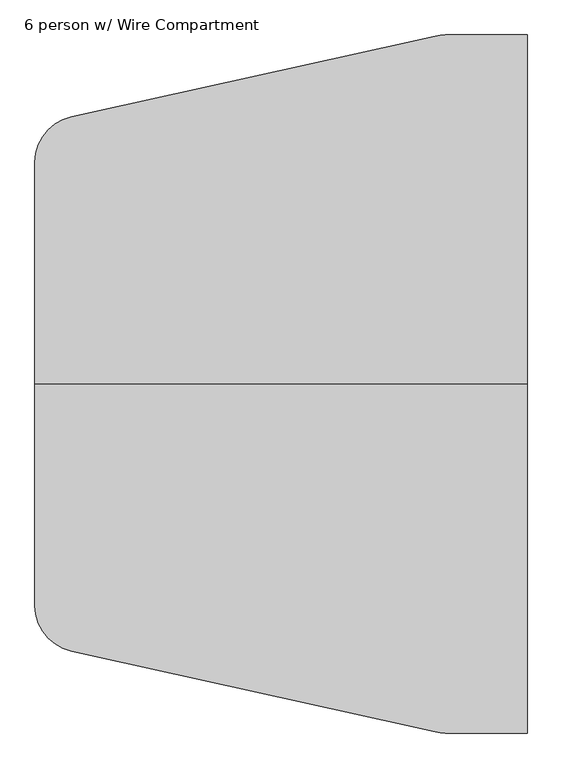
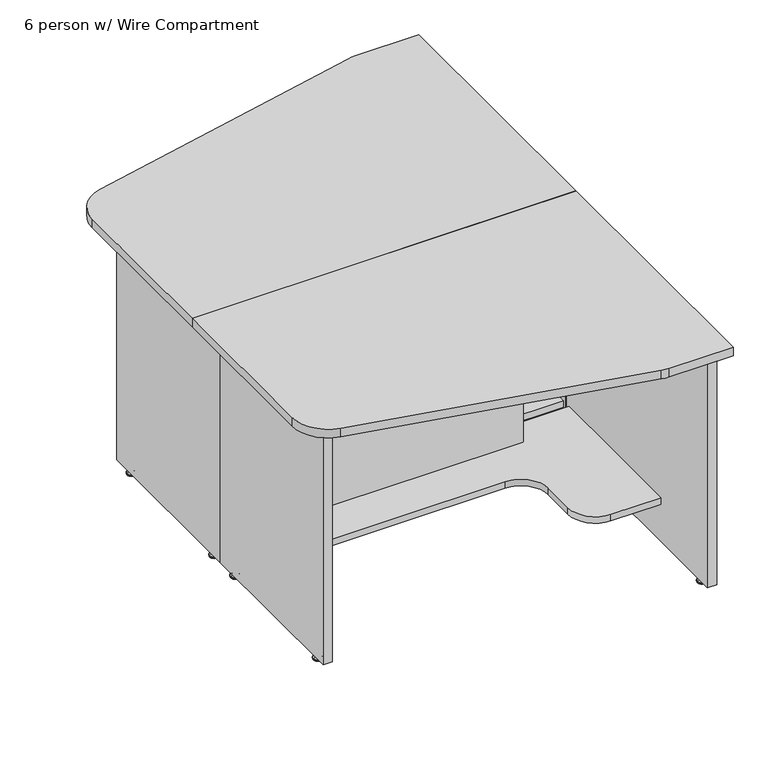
"""IFC4 building model written with IfcOpenShell, lengths in millimetres: furniture geometry, Nova Solutions - Collaboration Table - Boat_6-8 person : 6 person w/ Wire Compartment."""

from ifc_helpers import new_model, si_unit, point, frame, frame_2d, origin, place, context, project, spatial, polyline, circle_curve, ellipse_curve, trimmed, segment, composite_curve, outline, extrude, source, transform, mapped, element, save
from ifc_brep_helpers import plane_surface, cylinder_surface, revolved_surface, advanced_brep


def furniture_6_person_w_wire_compartment_566aee02(model_context):
    return source(origin(), model_context, "Body", "SolidModel", [
        extrude(outline(polyline([(145.5, -1880.6768948), (145.5, -1112.3768948), (507.4, -1112.3768948), (507.4, -941.3768948), (736.3, -941.3768948), (736.3, -1880.6768948), (145.5, -1880.6768948)])), frame((0.0, 69.4, 0.0), z_axis=(0.0, 1.0, 0.0), x_axis=(0.0, 0.0, 1.0)), (0.0, 0.0, 1.0), 19.2),
        extrude(outline(composite_curve([segment(polyline([(-1880.6768948, 14.1), (-1880.6768948, 210.4), (-1233.5768948, 210.4)]), True, "CONTINUOUS"), segment(trimmed(circle_curve(frame_2d((-1233.5768948, 286.6)), 76.2), [point((-1233.5768948, 210.4))], [point((-1157.3768948, 286.6))], True, "CARTESIAN"), True, "CONTINUOUS"), segment(polyline([(-1157.3768948, 286.6), (-1157.3768948, 381.0625)]), True, "CONTINUOUS"), segment(trimmed(circle_curve(frame_2d((-1081.1768948, 381.0625)), 76.2), [point((-1157.3768948, 381.0625))], [point((-1081.1768948, 457.2625))], False, "CARTESIAN"), True, "CONTINUOUS"), segment(polyline([(-1081.1768948, 457.2625), (-941.3768948, 457.2625), (-941.3768948, 14.1), (-1880.6768948, 14.1)]), True, "CONTINUOUS")], self_intersect=False)), frame((0.0, 0.0, 126.3), z_axis=(0.0, 0.0, 1.0), x_axis=(1.0, 0.0, 0.0)), (0.0, 0.0, 1.0), 19.2),
        advanced_brep(
        [(-1900.2045454, 448.9859375, 11.1125), (-1886.8492442, 448.9859375, 11.1125), (-1893.5268948, 448.9859375, 11.1125), (-1900.2045454, 448.9859375, 9.525), (-1886.8492442, 448.9859375, 9.525), (-1905.4124083, 448.9859375, 4.7748687), (-1881.6413813, 448.9859375, 4.7748687), (-1906.2735454, 448.9859375, 3.989419), (-1880.7802442, 448.9859375, 3.989419), (-1906.2735454, 448.9859375, 3.175), (-1880.7802442, 448.9859375, 3.175), (-1905.4228067, 448.9859375, 0.0), (-1881.6309828, 448.9859375, 0.0), (-1893.5268948, 448.9859375, 0.0)],
        [
            (0, 1, circle_curve(frame((-1893.5268948, 448.9859375, 11.1125), z_axis=(0.0, 0.0, 1.0), x_axis=(1.0, 0.0, 0.0)), 6.6776506)),
            (1, 2),
            (2, 0),
            (1, 0, circle_curve(frame((-1893.5268948, 448.9859375, 11.1125), z_axis=(0.0, 0.0, 1.0), x_axis=(1.0, 0.0, 0.0)), 6.6776506)),
            (3, 4, circle_curve(frame((-1893.5268948, 448.9859375, 9.525), z_axis=(0.0, 0.0, 1.0), x_axis=(1.0, 0.0, 0.0)), 6.6776506)),
            (4, 1),
            (0, 3),
            (4, 3, circle_curve(frame((-1893.5268948, 448.9859375, 9.525), z_axis=(0.0, 0.0, 1.0), x_axis=(1.0, 0.0, 0.0)), 6.6776506)),
            (5, 6, circle_curve(frame((-1893.5268948, 448.9859375, 4.7748687), z_axis=(0.0, 0.0, 1.0), x_axis=(1.0, 0.0, 0.0)), 11.8855135)),
            (6, 4, circle_curve(frame((-1880.5948321, 448.9859375, 11.1521822), z_axis=(0.0, 1.0, 0.0), x_axis=(-1.0, 0.0, 0.0)), 6.462615)),
            (3, 5, circle_curve(frame((-1906.4589575, 448.9859375, 11.1521822), z_axis=(0.0, 1.0, 0.0), x_axis=(1.0, 0.0, 0.0)), 6.462615)),
            (6, 5, circle_curve(frame((-1893.5268948, 448.9859375, 4.7748687), z_axis=(0.0, 0.0, 1.0), x_axis=(1.0, 0.0, 0.0)), 11.8855135)),
            (7, 8, circle_curve(frame((-1893.5268948, 448.9859375, 3.989419), z_axis=(0.0, 0.0, 1.0), x_axis=(1.0, 0.0, 0.0)), 12.7466506)),
            (8, 6, circle_curve(frame((-1881.8144316, 448.9859375, 3.7203591), z_axis=(0.0, -1.0, 0.0), x_axis=(-1.0, 0.0, 0.0)), 1.0686145)),
            (5, 7, circle_curve(frame((-1905.239358, 448.9859375, 3.7203591), z_axis=(0.0, -1.0, 0.0), x_axis=(1.0, 0.0, 0.0)), 1.0686145)),
            (8, 7, circle_curve(frame((-1893.5268948, 448.9859375, 3.989419), z_axis=(0.0, 0.0, 1.0), x_axis=(1.0, 0.0, 0.0)), 12.7466506)),
            (9, 10, circle_curve(frame((-1893.5268948, 448.9859375, 3.175), z_axis=(0.0, 0.0, 1.0), x_axis=(1.0, 0.0, 0.0)), 12.7466506)),
            (10, 8),
            (7, 9),
            (10, 9, circle_curve(frame((-1893.5268948, 448.9859375, 3.175), z_axis=(0.0, 0.0, 1.0), x_axis=(1.0, 0.0, 0.0)), 12.7466506)),
            (11, 12, circle_curve(frame((-1893.5268948, 448.9859375, 0.0), z_axis=(0.0, 0.0, 1.0), x_axis=(1.0, 0.0, 0.0)), 11.8959119)),
            (12, 10),
            (9, 11),
            (12, 11, circle_curve(frame((-1893.5268948, 448.9859375, 0.0), z_axis=(0.0, 0.0, 1.0), x_axis=(1.0, 0.0, 0.0)), 11.8959119)),
            (13, 12),
            (11, 13),
        ],
        [
            plane_surface(frame((-1893.5268948, 448.9859375, 11.1125), z_axis=(0.0, 0.0, 1.0), x_axis=(1.0, 0.0, 0.0))),
            cylinder_surface(frame((-1893.5268948, 448.9859375, 43.2095994), z_axis=(0.0, 0.0, -1.0), x_axis=(1.0, 0.0, 0.0)), 6.6776506),
            revolved_surface(trimmed(ellipse_curve(frame((-1880.5948321, 448.9859375, 11.1521822), z_axis=(0.0, -1.0, 0.0), x_axis=(-1.0, 0.0, 0.0)), 6.462615, 6.462615), [point((-1886.8492442, 448.9859375, 9.525))], [point((-1881.6413813, 448.9859375, 4.7748687))], True, "CARTESIAN"), (-1893.5268948, 448.9859375, 43.2095994), (0.0, 0.0, -1.0)),
            revolved_surface(trimmed(ellipse_curve(frame((-1881.8144316, 448.9859375, 3.7203591), z_axis=(0.0, 1.0, 0.0), x_axis=(-1.0, 0.0, 0.0)), 1.0686145, 1.0686145), [point((-1881.6413813, 448.9859375, 4.7748687))], [point((-1880.7802442, 448.9859375, 3.989419))], True, "CARTESIAN"), (-1893.5268948, 448.9859375, 43.2095994), (0.0, 0.0, -1.0)),
            cylinder_surface(frame((-1893.5268948, 448.9859375, 43.2095994), z_axis=(0.0, 0.0, -1.0), x_axis=(1.0, 0.0, 0.0)), 12.7466506),
            revolved_surface(polyline([(-1880.7802442, 448.9859375, 3.175), (-1881.6309828, 448.9859375, 0.0)]), (-1893.5268948, 448.9859375, 43.2095994), (0.0, 0.0, -1.0)),
            plane_surface(frame((-1893.5268948, 448.9859375, 0.0), z_axis=(0.0, 0.0, -1.0), x_axis=(1.0, 0.0, 0.0))),
        ],
        [
            (0, [[1, 2, 3]]),
            (0, [[4, -3, -2]]),
            (1, [[5, 6, -1, 7]]),
            (1, [[8, -7, -4, -6]]),
            (2, [[9, 10, -5, 11]]),
            (2, [[12, -11, -8, -10]]),
            (3, [[13, 14, -9, 15]]),
            (3, [[16, -15, -12, -14]]),
            (4, [[17, 18, -13, 19]]),
            (4, [[20, -19, -16, -18]]),
            (5, [[21, 22, -17, 23]]),
            (5, [[24, -23, -20, -22]]),
            (6, [[25, -21, 26]]),
            (6, [[-26, -24, -25]]),
        ],
    ),
        advanced_brep(
        [(-1900.2045454, 50.4140625, 11.1125), (-1886.8492442, 50.4140625, 11.1125), (-1893.5268948, 50.4140625, 11.1125), (-1900.2045454, 50.4140625, 9.525), (-1886.8492442, 50.4140625, 9.525), (-1905.4124083, 50.4140625, 4.7748687), (-1881.6413813, 50.4140625, 4.7748687), (-1906.2735454, 50.4140625, 3.989419), (-1880.7802442, 50.4140625, 3.989419), (-1906.2735454, 50.4140625, 3.175), (-1880.7802442, 50.4140625, 3.175), (-1905.4228067, 50.4140625, 0.0), (-1881.6309828, 50.4140625, 0.0), (-1893.5268948, 50.4140625, 0.0)],
        [
            (0, 1, circle_curve(frame((-1893.5268948, 50.4140625, 11.1125), z_axis=(0.0, 0.0, 1.0), x_axis=(1.0, 0.0, 0.0)), 6.6776506)),
            (1, 2),
            (2, 0),
            (1, 0, circle_curve(frame((-1893.5268948, 50.4140625, 11.1125), z_axis=(0.0, 0.0, 1.0), x_axis=(1.0, 0.0, 0.0)), 6.6776506)),
            (3, 4, circle_curve(frame((-1893.5268948, 50.4140625, 9.525), z_axis=(0.0, 0.0, 1.0), x_axis=(1.0, 0.0, 0.0)), 6.6776506)),
            (4, 1),
            (0, 3),
            (4, 3, circle_curve(frame((-1893.5268948, 50.4140625, 9.525), z_axis=(0.0, 0.0, 1.0), x_axis=(1.0, 0.0, 0.0)), 6.6776506)),
            (5, 6, circle_curve(frame((-1893.5268948, 50.4140625, 4.7748687), z_axis=(0.0, 0.0, 1.0), x_axis=(1.0, 0.0, 0.0)), 11.8855135)),
            (6, 4, circle_curve(frame((-1880.5948321, 50.4140625, 11.1521822), z_axis=(0.0, 1.0, 0.0), x_axis=(-1.0, 0.0, 0.0)), 6.462615)),
            (3, 5, circle_curve(frame((-1906.4589575, 50.4140625, 11.1521822), z_axis=(0.0, 1.0, 0.0), x_axis=(1.0, 0.0, 0.0)), 6.462615)),
            (6, 5, circle_curve(frame((-1893.5268948, 50.4140625, 4.7748687), z_axis=(0.0, 0.0, 1.0), x_axis=(1.0, 0.0, 0.0)), 11.8855135)),
            (7, 8, circle_curve(frame((-1893.5268948, 50.4140625, 3.989419), z_axis=(0.0, 0.0, 1.0), x_axis=(1.0, 0.0, 0.0)), 12.7466506)),
            (8, 6, circle_curve(frame((-1881.8144316, 50.4140625, 3.7203591), z_axis=(0.0, -1.0, 0.0), x_axis=(-1.0, 0.0, 0.0)), 1.0686145)),
            (5, 7, circle_curve(frame((-1905.239358, 50.4140625, 3.7203591), z_axis=(0.0, -1.0, 0.0), x_axis=(1.0, 0.0, 0.0)), 1.0686145)),
            (8, 7, circle_curve(frame((-1893.5268948, 50.4140625, 3.989419), z_axis=(0.0, 0.0, 1.0), x_axis=(1.0, 0.0, 0.0)), 12.7466506)),
            (9, 10, circle_curve(frame((-1893.5268948, 50.4140625, 3.175), z_axis=(0.0, 0.0, 1.0), x_axis=(1.0, 0.0, 0.0)), 12.7466506)),
            (10, 8),
            (7, 9),
            (10, 9, circle_curve(frame((-1893.5268948, 50.4140625, 3.175), z_axis=(0.0, 0.0, 1.0), x_axis=(1.0, 0.0, 0.0)), 12.7466506)),
            (11, 12, circle_curve(frame((-1893.5268948, 50.4140625, 0.0), z_axis=(0.0, 0.0, 1.0), x_axis=(1.0, 0.0, 0.0)), 11.8959119)),
            (12, 10),
            (9, 11),
            (12, 11, circle_curve(frame((-1893.5268948, 50.4140625, 0.0), z_axis=(0.0, 0.0, 1.0), x_axis=(1.0, 0.0, 0.0)), 11.8959119)),
            (13, 12),
            (11, 13),
        ],
        [
            plane_surface(frame((-1893.5268948, 50.4140625, 11.1125), z_axis=(0.0, 0.0, 1.0), x_axis=(1.0, 0.0, 0.0))),
            cylinder_surface(frame((-1893.5268948, 50.4140625, 43.2095994), z_axis=(0.0, 0.0, -1.0), x_axis=(1.0, 0.0, 0.0)), 6.6776506),
            revolved_surface(trimmed(ellipse_curve(frame((-1880.5948321, 50.4140625, 11.1521822), z_axis=(0.0, -1.0, 0.0), x_axis=(-1.0, 0.0, 0.0)), 6.462615, 6.462615), [point((-1886.8492442, 50.4140625, 9.525))], [point((-1881.6413813, 50.4140625, 4.7748687))], True, "CARTESIAN"), (-1893.5268948, 50.4140625, 43.2095994), (0.0, 0.0, -1.0)),
            revolved_surface(trimmed(ellipse_curve(frame((-1881.8144316, 50.4140625, 3.7203591), z_axis=(0.0, 1.0, 0.0), x_axis=(-1.0, 0.0, 0.0)), 1.0686145, 1.0686145), [point((-1881.6413813, 50.4140625, 4.7748687))], [point((-1880.7802442, 50.4140625, 3.989419))], True, "CARTESIAN"), (-1893.5268948, 50.4140625, 43.2095994), (0.0, 0.0, -1.0)),
            cylinder_surface(frame((-1893.5268948, 50.4140625, 43.2095994), z_axis=(0.0, 0.0, -1.0), x_axis=(1.0, 0.0, 0.0)), 12.7466506),
            revolved_surface(polyline([(-1880.7802442, 50.4140625, 3.175), (-1881.6309828, 50.4140625, 0.0)]), (-1893.5268948, 50.4140625, 43.2095994), (0.0, 0.0, -1.0)),
            plane_surface(frame((-1893.5268948, 50.4140625, 0.0), z_axis=(0.0, 0.0, -1.0), x_axis=(1.0, 0.0, 0.0))),
        ],
        [
            (0, [[1, 2, 3]]),
            (0, [[4, -3, -2]]),
            (1, [[5, 6, -1, 7]]),
            (1, [[8, -7, -4, -6]]),
            (2, [[9, 10, -5, 11]]),
            (2, [[12, -11, -8, -10]]),
            (3, [[13, 14, -9, 15]]),
            (3, [[16, -15, -12, -14]]),
            (4, [[17, 18, -13, 19]]),
            (4, [[20, -19, -16, -18]]),
            (5, [[21, 22, -17, 23]]),
            (5, [[24, -23, -20, -22]]),
            (6, [[25, -21, 26]]),
            (6, [[-26, -24, -25]]),
        ],
    ),
        extrude(outline(polyline([(-1906.3768948, 1.4), (-1906.3768948, 498.0), (-1880.6768948, 498.0), (-1880.6768948, 1.4), (-1906.3768948, 1.4)])), frame((0.0, 0.0, 15.6), z_axis=(0.0, 0.0, 1.0), x_axis=(1.0, 0.0, 0.0)), (0.0, 0.0, 1.0), 720.7),
        advanced_brep(
        [(-921.8492442, 631.3859375, 11.1125), (-928.5268948, 631.3859375, 11.1125), (-935.2045454, 631.3859375, 11.1125), (-921.8492442, 631.3859375, 9.525), (-935.2045454, 631.3859375, 9.525), (-916.6413813, 631.3859375, 4.7748687), (-940.4124083, 631.3859375, 4.7748687), (-915.7802442, 631.3859375, 3.989419), (-941.2735454, 631.3859375, 3.989419), (-915.7802442, 631.3859375, 3.175), (-941.2735454, 631.3859375, 3.175), (-916.6309828, 631.3859375, 0.0), (-940.4228067, 631.3859375, 0.0), (-928.5268948, 631.3859375, 0.0)],
        [
            (0, 1),
            (1, 2),
            (2, 0, circle_curve(frame((-928.5268948, 631.3859375, 11.1125), z_axis=(0.0, 0.0, 1.0), x_axis=(-1.0, 0.0, 0.0)), 6.6776506)),
            (0, 2, circle_curve(frame((-928.5268948, 631.3859375, 11.1125), z_axis=(0.0, 0.0, 1.0), x_axis=(-1.0, 0.0, 0.0)), 6.6776506)),
            (3, 0),
            (2, 4),
            (4, 3, circle_curve(frame((-928.5268948, 631.3859375, 9.525), z_axis=(0.0, 0.0, 1.0), x_axis=(-1.0, 0.0, 0.0)), 6.6776506)),
            (3, 4, circle_curve(frame((-928.5268948, 631.3859375, 9.525), z_axis=(0.0, 0.0, 1.0), x_axis=(-1.0, 0.0, 0.0)), 6.6776506)),
            (5, 3, circle_curve(frame((-915.5948321, 631.3859375, 11.1521822), z_axis=(0.0, 1.0, 0.0), x_axis=(-1.0, 0.0, 0.0)), 6.462615)),
            (4, 6, circle_curve(frame((-941.4589575, 631.3859375, 11.1521822), z_axis=(0.0, 1.0, 0.0), x_axis=(1.0, 0.0, 0.0)), 6.462615)),
            (6, 5, circle_curve(frame((-928.5268948, 631.3859375, 4.7748687), z_axis=(0.0, 0.0, 1.0), x_axis=(-1.0, 0.0, 0.0)), 11.8855135)),
            (5, 6, circle_curve(frame((-928.5268948, 631.3859375, 4.7748687), z_axis=(0.0, 0.0, 1.0), x_axis=(-1.0, 0.0, 0.0)), 11.8855135)),
            (7, 5, circle_curve(frame((-916.8144316, 631.3859375, 3.7203591), z_axis=(0.0, -1.0, 0.0), x_axis=(-1.0, 0.0, 0.0)), 1.0686145)),
            (6, 8, circle_curve(frame((-940.239358, 631.3859375, 3.7203591), z_axis=(0.0, -1.0, 0.0), x_axis=(1.0, 0.0, 0.0)), 1.0686145)),
            (8, 7, circle_curve(frame((-928.5268948, 631.3859375, 3.989419), z_axis=(0.0, 0.0, 1.0), x_axis=(-1.0, 0.0, 0.0)), 12.7466506)),
            (7, 8, circle_curve(frame((-928.5268948, 631.3859375, 3.989419), z_axis=(0.0, 0.0, 1.0), x_axis=(-1.0, 0.0, 0.0)), 12.7466506)),
            (9, 7),
            (8, 10),
            (10, 9, circle_curve(frame((-928.5268948, 631.3859375, 3.175), z_axis=(0.0, 0.0, 1.0), x_axis=(-1.0, 0.0, 0.0)), 12.7466506)),
            (9, 10, circle_curve(frame((-928.5268948, 631.3859375, 3.175), z_axis=(0.0, 0.0, 1.0), x_axis=(-1.0, 0.0, 0.0)), 12.7466506)),
            (11, 9),
            (10, 12),
            (12, 11, circle_curve(frame((-928.5268948, 631.3859375, 0.0), z_axis=(0.0, 0.0, 1.0), x_axis=(-1.0, 0.0, 0.0)), 11.8959119)),
            (11, 12, circle_curve(frame((-928.5268948, 631.3859375, 0.0), z_axis=(0.0, 0.0, 1.0), x_axis=(-1.0, 0.0, 0.0)), 11.8959119)),
            (13, 11),
            (12, 13),
        ],
        [
            plane_surface(frame((-928.5268948, 631.3859375, 11.1125), z_axis=(0.0, 0.0, 1.0), x_axis=(-1.0, 0.0, 0.0))),
            cylinder_surface(frame((-928.5268948, 631.3859375, 43.2095994), z_axis=(0.0, 0.0, -1.0), x_axis=(-1.0, 0.0, 0.0)), 6.6776506),
            revolved_surface(trimmed(ellipse_curve(frame((-941.4589575, 631.3859375, 11.1521822), z_axis=(0.0, 1.0, 0.0), x_axis=(1.0, 0.0, 0.0)), 6.462615, 6.462615), [point((-935.2045454, 631.3859375, 9.525))], [point((-940.4124083, 631.3859375, 4.7748687))], True, "CARTESIAN"), (-928.5268948, 631.3859375, 43.2095994), (0.0, 0.0, -1.0)),
            revolved_surface(trimmed(ellipse_curve(frame((-940.239358, 631.3859375, 3.7203591), z_axis=(0.0, -1.0, 0.0), x_axis=(1.0, 0.0, 0.0)), 1.0686145, 1.0686145), [point((-940.4124083, 631.3859375, 4.7748687))], [point((-941.2735454, 631.3859375, 3.989419))], True, "CARTESIAN"), (-928.5268948, 631.3859375, 43.2095994), (0.0, 0.0, -1.0)),
            cylinder_surface(frame((-928.5268948, 631.3859375, 43.2095994), z_axis=(0.0, 0.0, -1.0), x_axis=(-1.0, 0.0, 0.0)), 12.7466506),
            revolved_surface(polyline([(-941.2735454, 631.3859375, 3.175), (-940.4228067, 631.3859375, 0.0)]), (-928.5268948, 631.3859375, 43.2095994), (0.0, 0.0, -1.0)),
            plane_surface(frame((-928.5268948, 631.3859375, 0.0), z_axis=(0.0, 0.0, -1.0), x_axis=(-1.0, 0.0, 0.0))),
        ],
        [
            (0, [[1, 2, 3]]),
            (0, [[-2, -1, 4]]),
            (1, [[5, -3, 6, 7]]),
            (1, [[-6, -4, -5, 8]]),
            (2, [[9, -7, 10, 11]]),
            (2, [[-10, -8, -9, 12]]),
            (3, [[13, -11, 14, 15]]),
            (3, [[-14, -12, -13, 16]]),
            (4, [[17, -15, 18, 19]]),
            (4, [[-18, -16, -17, 20]]),
            (5, [[21, -19, 22, 23]]),
            (5, [[-22, -20, -21, 24]]),
            (6, [[25, -23, 26]]),
            (6, [[-26, -24, -25]]),
        ],
    ),
        advanced_brep(
        [(-921.8492442, 50.4140625, 11.1125), (-928.5268948, 50.4140625, 11.1125), (-935.2045454, 50.4140625, 11.1125), (-921.8492442, 50.4140625, 9.525), (-935.2045454, 50.4140625, 9.525), (-916.6413813, 50.4140625, 4.7748687), (-940.4124083, 50.4140625, 4.7748687), (-915.7802442, 50.4140625, 3.989419), (-941.2735454, 50.4140625, 3.989419), (-915.7802442, 50.4140625, 3.175), (-941.2735454, 50.4140625, 3.175), (-916.6309828, 50.4140625, 0.0), (-940.4228067, 50.4140625, 0.0), (-928.5268948, 50.4140625, 0.0)],
        [
            (0, 1),
            (1, 2),
            (2, 0, circle_curve(frame((-928.5268948, 50.4140625, 11.1125), z_axis=(0.0, 0.0, 1.0), x_axis=(-1.0, 0.0, 0.0)), 6.6776506)),
            (0, 2, circle_curve(frame((-928.5268948, 50.4140625, 11.1125), z_axis=(0.0, 0.0, 1.0), x_axis=(-1.0, 0.0, 0.0)), 6.6776506)),
            (3, 0),
            (2, 4),
            (4, 3, circle_curve(frame((-928.5268948, 50.4140625, 9.525), z_axis=(0.0, 0.0, 1.0), x_axis=(-1.0, 0.0, 0.0)), 6.6776506)),
            (3, 4, circle_curve(frame((-928.5268948, 50.4140625, 9.525), z_axis=(0.0, 0.0, 1.0), x_axis=(-1.0, 0.0, 0.0)), 6.6776506)),
            (5, 3, circle_curve(frame((-915.5948321, 50.4140625, 11.1521822), z_axis=(0.0, 1.0, 0.0), x_axis=(-1.0, 0.0, 0.0)), 6.462615)),
            (4, 6, circle_curve(frame((-941.4589575, 50.4140625, 11.1521822), z_axis=(0.0, 1.0, 0.0), x_axis=(1.0, 0.0, 0.0)), 6.462615)),
            (6, 5, circle_curve(frame((-928.5268948, 50.4140625, 4.7748687), z_axis=(0.0, 0.0, 1.0), x_axis=(-1.0, 0.0, 0.0)), 11.8855135)),
            (5, 6, circle_curve(frame((-928.5268948, 50.4140625, 4.7748687), z_axis=(0.0, 0.0, 1.0), x_axis=(-1.0, 0.0, 0.0)), 11.8855135)),
            (7, 5, circle_curve(frame((-916.8144316, 50.4140625, 3.7203591), z_axis=(0.0, -1.0, 0.0), x_axis=(-1.0, 0.0, 0.0)), 1.0686145)),
            (6, 8, circle_curve(frame((-940.239358, 50.4140625, 3.7203591), z_axis=(0.0, -1.0, 0.0), x_axis=(1.0, 0.0, 0.0)), 1.0686145)),
            (8, 7, circle_curve(frame((-928.5268948, 50.4140625, 3.989419), z_axis=(0.0, 0.0, 1.0), x_axis=(-1.0, 0.0, 0.0)), 12.7466506)),
            (7, 8, circle_curve(frame((-928.5268948, 50.4140625, 3.989419), z_axis=(0.0, 0.0, 1.0), x_axis=(-1.0, 0.0, 0.0)), 12.7466506)),
            (9, 7),
            (8, 10),
            (10, 9, circle_curve(frame((-928.5268948, 50.4140625, 3.175), z_axis=(0.0, 0.0, 1.0), x_axis=(-1.0, 0.0, 0.0)), 12.7466506)),
            (9, 10, circle_curve(frame((-928.5268948, 50.4140625, 3.175), z_axis=(0.0, 0.0, 1.0), x_axis=(-1.0, 0.0, 0.0)), 12.7466506)),
            (11, 9),
            (10, 12),
            (12, 11, circle_curve(frame((-928.5268948, 50.4140625, 0.0), z_axis=(0.0, 0.0, 1.0), x_axis=(-1.0, 0.0, 0.0)), 11.8959119)),
            (11, 12, circle_curve(frame((-928.5268948, 50.4140625, 0.0), z_axis=(0.0, 0.0, 1.0), x_axis=(-1.0, 0.0, 0.0)), 11.8959119)),
            (13, 11),
            (12, 13),
        ],
        [
            plane_surface(frame((-928.5268948, 50.4140625, 11.1125), z_axis=(0.0, 0.0, 1.0), x_axis=(-1.0, 0.0, 0.0))),
            cylinder_surface(frame((-928.5268948, 50.4140625, 43.2095994), z_axis=(0.0, 0.0, -1.0), x_axis=(-1.0, 0.0, 0.0)), 6.6776506),
            revolved_surface(trimmed(ellipse_curve(frame((-941.4589575, 50.4140625, 11.1521822), z_axis=(0.0, 1.0, 0.0), x_axis=(1.0, 0.0, 0.0)), 6.462615, 6.462615), [point((-935.2045454, 50.4140625, 9.525))], [point((-940.4124083, 50.4140625, 4.7748687))], True, "CARTESIAN"), (-928.5268948, 50.4140625, 43.2095994), (0.0, 0.0, -1.0)),
            revolved_surface(trimmed(ellipse_curve(frame((-940.239358, 50.4140625, 3.7203591), z_axis=(0.0, -1.0, 0.0), x_axis=(1.0, 0.0, 0.0)), 1.0686145, 1.0686145), [point((-940.4124083, 50.4140625, 4.7748687))], [point((-941.2735454, 50.4140625, 3.989419))], True, "CARTESIAN"), (-928.5268948, 50.4140625, 43.2095994), (0.0, 0.0, -1.0)),
            cylinder_surface(frame((-928.5268948, 50.4140625, 43.2095994), z_axis=(0.0, 0.0, -1.0), x_axis=(-1.0, 0.0, 0.0)), 12.7466506),
            revolved_surface(polyline([(-941.2735454, 50.4140625, 3.175), (-940.4228067, 50.4140625, 0.0)]), (-928.5268948, 50.4140625, 43.2095994), (0.0, 0.0, -1.0)),
            plane_surface(frame((-928.5268948, 50.4140625, 0.0), z_axis=(0.0, 0.0, -1.0), x_axis=(-1.0, 0.0, 0.0))),
        ],
        [
            (0, [[1, 2, 3]]),
            (0, [[-2, -1, 4]]),
            (1, [[5, -3, 6, 7]]),
            (1, [[-6, -4, -5, 8]]),
            (2, [[9, -7, 10, 11]]),
            (2, [[-10, -8, -9, 12]]),
            (3, [[13, -11, 14, 15]]),
            (3, [[-14, -12, -13, 16]]),
            (4, [[17, -15, 18, 19]]),
            (4, [[-18, -16, -17, 20]]),
            (5, [[21, -19, 22, 23]]),
            (5, [[-22, -20, -21, 24]]),
            (6, [[25, -23, 26]]),
            (6, [[-26, -24, -25]]),
        ],
    ),
        extrude(outline(polyline([(-915.6768948, 1.4), (-941.3768948, 1.4), (-941.3768948, 680.4), (-915.6768948, 680.4), (-915.6768948, 1.4)])), frame((0.0, 0.0, 15.6), z_axis=(0.0, 0.0, 1.0), x_axis=(1.0, 0.0, 0.0)), (0.0, 0.0, 1.0), 720.7),
        extrude(outline(composite_curve([segment(polyline([(-1091.4972388, 758.0), (-914.2768948, 758.0), (-914.2768948, 0.0), (-1983.9878948, 0.0), (-1983.9878948, 481.0637628)]), True, "CONTINUOUS"), segment(trimmed(circle_curve(frame_2d((-1882.3878948, 481.0637628)), 101.6), [point((-1983.9878948, 481.0637628))], [point((-1904.3781596, 580.2554372))], False, "CARTESIAN"), True, "CONTINUOUS"), segment(polyline([(-1904.3781596, 580.2554372), (-1113.4875036, 755.5916743)]), True, "CONTINUOUS"), segment(trimmed(circle_curve(frame_2d((-1091.4972388, 656.4)), 101.6), [point((-1113.4875036, 755.5916743))], [point((-1091.4972388, 758.0))], False, "CARTESIAN"), True, "CONTINUOUS")], self_intersect=False)), frame((0.0, 0.0, 736.3), z_axis=(0.0, 0.0, 1.0), x_axis=(1.0, 0.0, 0.0)), (0.0, 0.0, 1.0), 25.7),
        extrude(outline(polyline([(736.3, -1880.6768948), (145.5, -1880.6768948), (145.5, -1112.3768948), (507.4, -1112.3768948), (507.4, -941.3768948), (736.3, -941.3768948), (736.3, -1880.6768948)])), frame((0.0, -88.6, 0.0), z_axis=(0.0, 1.0, 0.0), x_axis=(0.0, 0.0, 1.0)), (0.0, 0.0, 1.0), 19.2),
        extrude(outline(composite_curve([segment(polyline([(-1880.6768948, -14.1), (-941.3768948, -14.1), (-941.3768948, -457.2625), (-1081.1768948, -457.2625)]), True, "CONTINUOUS"), segment(trimmed(circle_curve(frame_2d((-1081.1768948, -381.0625)), 76.2), [point((-1081.1768948, -457.2625))], [point((-1157.3768948, -381.0625))], False, "CARTESIAN"), True, "CONTINUOUS"), segment(polyline([(-1157.3768948, -381.0625), (-1157.3768948, -286.6)]), True, "CONTINUOUS"), segment(trimmed(circle_curve(frame_2d((-1233.5768948, -286.6)), 76.2), [point((-1157.3768948, -286.6))], [point((-1233.5768948, -210.4))], True, "CARTESIAN"), True, "CONTINUOUS"), segment(polyline([(-1233.5768948, -210.4), (-1880.6768948, -210.4), (-1880.6768948, -14.1)]), True, "CONTINUOUS")], self_intersect=False)), frame((0.0, 0.0, 126.3), z_axis=(0.0, 0.0, 1.0), x_axis=(1.0, 0.0, 0.0)), (0.0, 0.0, 1.0), 19.2),
        advanced_brep(
        [(-1900.2045454, -448.9859375, 11.1125), (-1893.5268948, -448.9859375, 11.1125), (-1886.8492442, -448.9859375, 11.1125), (-1900.2045454, -448.9859375, 9.525), (-1886.8492442, -448.9859375, 9.525), (-1905.4124083, -448.9859375, 4.7748687), (-1881.6413813, -448.9859375, 4.7748687), (-1906.2735454, -448.9859375, 3.989419), (-1880.7802442, -448.9859375, 3.989419), (-1906.2735454, -448.9859375, 3.175), (-1880.7802442, -448.9859375, 3.175), (-1905.4228067, -448.9859375, 0.0), (-1881.6309828, -448.9859375, 0.0), (-1893.5268948, -448.9859375, 0.0)],
        [
            (0, 1),
            (1, 2),
            (2, 0, circle_curve(frame((-1893.5268948, -448.9859375, 11.1125), z_axis=(0.0, 0.0, 1.0), x_axis=(1.0, 0.0, 0.0)), 6.6776506)),
            (0, 2, circle_curve(frame((-1893.5268948, -448.9859375, 11.1125), z_axis=(0.0, 0.0, 1.0), x_axis=(1.0, 0.0, 0.0)), 6.6776506)),
            (3, 0),
            (2, 4),
            (4, 3, circle_curve(frame((-1893.5268948, -448.9859375, 9.525), z_axis=(0.0, 0.0, 1.0), x_axis=(1.0, 0.0, 0.0)), 6.6776506)),
            (3, 4, circle_curve(frame((-1893.5268948, -448.9859375, 9.525), z_axis=(0.0, 0.0, 1.0), x_axis=(1.0, 0.0, 0.0)), 6.6776506)),
            (5, 3, circle_curve(frame((-1906.4589575, -448.9859375, 11.1521822), z_axis=(0.0, -1.0, 0.0), x_axis=(1.0, 0.0, 0.0)), 6.462615)),
            (4, 6, circle_curve(frame((-1880.5948321, -448.9859375, 11.1521822), z_axis=(0.0, -1.0, 0.0), x_axis=(-1.0, 0.0, 0.0)), 6.462615)),
            (6, 5, circle_curve(frame((-1893.5268948, -448.9859375, 4.7748687), z_axis=(0.0, 0.0, 1.0), x_axis=(1.0, 0.0, 0.0)), 11.8855135)),
            (5, 6, circle_curve(frame((-1893.5268948, -448.9859375, 4.7748687), z_axis=(0.0, 0.0, 1.0), x_axis=(1.0, 0.0, 0.0)), 11.8855135)),
            (7, 5, circle_curve(frame((-1905.239358, -448.9859375, 3.7203591), z_axis=(0.0, 1.0, 0.0), x_axis=(1.0, 0.0, 0.0)), 1.0686145)),
            (6, 8, circle_curve(frame((-1881.8144316, -448.9859375, 3.7203591), z_axis=(0.0, 1.0, 0.0), x_axis=(-1.0, 0.0, 0.0)), 1.0686145)),
            (8, 7, circle_curve(frame((-1893.5268948, -448.9859375, 3.989419), z_axis=(0.0, 0.0, 1.0), x_axis=(1.0, 0.0, 0.0)), 12.7466506)),
            (7, 8, circle_curve(frame((-1893.5268948, -448.9859375, 3.989419), z_axis=(0.0, 0.0, 1.0), x_axis=(1.0, 0.0, 0.0)), 12.7466506)),
            (9, 7),
            (8, 10),
            (10, 9, circle_curve(frame((-1893.5268948, -448.9859375, 3.175), z_axis=(0.0, 0.0, 1.0), x_axis=(1.0, 0.0, 0.0)), 12.7466506)),
            (9, 10, circle_curve(frame((-1893.5268948, -448.9859375, 3.175), z_axis=(0.0, 0.0, 1.0), x_axis=(1.0, 0.0, 0.0)), 12.7466506)),
            (11, 9),
            (10, 12),
            (12, 11, circle_curve(frame((-1893.5268948, -448.9859375, 0.0), z_axis=(0.0, 0.0, 1.0), x_axis=(1.0, 0.0, 0.0)), 11.8959119)),
            (11, 12, circle_curve(frame((-1893.5268948, -448.9859375, 0.0), z_axis=(0.0, 0.0, 1.0), x_axis=(1.0, 0.0, 0.0)), 11.8959119)),
            (13, 11),
            (12, 13),
        ],
        [
            plane_surface(frame((-1893.5268948, -448.9859375, 11.1125), z_axis=(0.0, 0.0, 1.0), x_axis=(1.0, 0.0, 0.0))),
            cylinder_surface(frame((-1893.5268948, -448.9859375, 43.2095994), z_axis=(0.0, 0.0, -1.0), x_axis=(1.0, 0.0, 0.0)), 6.6776506),
            revolved_surface(trimmed(ellipse_curve(frame((-1880.5948321, -448.9859375, 11.1521822), z_axis=(0.0, -1.0, 0.0), x_axis=(-1.0, 0.0, 0.0)), 6.462615, 6.462615), [point((-1886.8492442, -448.9859375, 9.525))], [point((-1881.6413813, -448.9859375, 4.7748687))], True, "CARTESIAN"), (-1893.5268948, -448.9859375, 43.2095994), (0.0, 0.0, -1.0)),
            revolved_surface(trimmed(ellipse_curve(frame((-1881.8144316, -448.9859375, 3.7203591), z_axis=(0.0, 1.0, 0.0), x_axis=(-1.0, 0.0, 0.0)), 1.0686145, 1.0686145), [point((-1881.6413813, -448.9859375, 4.7748687))], [point((-1880.7802442, -448.9859375, 3.989419))], True, "CARTESIAN"), (-1893.5268948, -448.9859375, 43.2095994), (0.0, 0.0, -1.0)),
            cylinder_surface(frame((-1893.5268948, -448.9859375, 43.2095994), z_axis=(0.0, 0.0, -1.0), x_axis=(1.0, 0.0, 0.0)), 12.7466506),
            revolved_surface(polyline([(-1880.7802442, -448.9859375, 3.175), (-1881.6309828, -448.9859375, 0.0)]), (-1893.5268948, -448.9859375, 43.2095994), (0.0, 0.0, -1.0)),
            plane_surface(frame((-1893.5268948, -448.9859375, 0.0), z_axis=(0.0, 0.0, -1.0), x_axis=(1.0, 0.0, 0.0))),
        ],
        [
            (0, [[1, 2, 3]]),
            (0, [[-2, -1, 4]]),
            (1, [[5, -3, 6, 7]]),
            (1, [[-6, -4, -5, 8]]),
            (2, [[9, -7, 10, 11]]),
            (2, [[-10, -8, -9, 12]]),
            (3, [[13, -11, 14, 15]]),
            (3, [[-14, -12, -13, 16]]),
            (4, [[17, -15, 18, 19]]),
            (4, [[-18, -16, -17, 20]]),
            (5, [[21, -19, 22, 23]]),
            (5, [[-22, -20, -21, 24]]),
            (6, [[25, -23, 26]]),
            (6, [[-26, -24, -25]]),
        ],
    ),
        advanced_brep(
        [(-1900.2045454, -50.4140625, 11.1125), (-1893.5268948, -50.4140625, 11.1125), (-1886.8492442, -50.4140625, 11.1125), (-1900.2045454, -50.4140625, 9.525), (-1886.8492442, -50.4140625, 9.525), (-1905.4124083, -50.4140625, 4.7748687), (-1881.6413813, -50.4140625, 4.7748687), (-1906.2735454, -50.4140625, 3.989419), (-1880.7802442, -50.4140625, 3.989419), (-1906.2735454, -50.4140625, 3.175), (-1880.7802442, -50.4140625, 3.175), (-1905.4228067, -50.4140625, 0.0), (-1881.6309828, -50.4140625, 0.0), (-1893.5268948, -50.4140625, 0.0)],
        [
            (0, 1),
            (1, 2),
            (2, 0, circle_curve(frame((-1893.5268948, -50.4140625, 11.1125), z_axis=(0.0, 0.0, 1.0), x_axis=(1.0, 0.0, 0.0)), 6.6776506)),
            (0, 2, circle_curve(frame((-1893.5268948, -50.4140625, 11.1125), z_axis=(0.0, 0.0, 1.0), x_axis=(1.0, 0.0, 0.0)), 6.6776506)),
            (3, 0),
            (2, 4),
            (4, 3, circle_curve(frame((-1893.5268948, -50.4140625, 9.525), z_axis=(0.0, 0.0, 1.0), x_axis=(1.0, 0.0, 0.0)), 6.6776506)),
            (3, 4, circle_curve(frame((-1893.5268948, -50.4140625, 9.525), z_axis=(0.0, 0.0, 1.0), x_axis=(1.0, 0.0, 0.0)), 6.6776506)),
            (5, 3, circle_curve(frame((-1906.4589575, -50.4140625, 11.1521822), z_axis=(0.0, -1.0, 0.0), x_axis=(1.0, 0.0, 0.0)), 6.462615)),
            (4, 6, circle_curve(frame((-1880.5948321, -50.4140625, 11.1521822), z_axis=(0.0, -1.0, 0.0), x_axis=(-1.0, 0.0, 0.0)), 6.462615)),
            (6, 5, circle_curve(frame((-1893.5268948, -50.4140625, 4.7748687), z_axis=(0.0, 0.0, 1.0), x_axis=(1.0, 0.0, 0.0)), 11.8855135)),
            (5, 6, circle_curve(frame((-1893.5268948, -50.4140625, 4.7748687), z_axis=(0.0, 0.0, 1.0), x_axis=(1.0, 0.0, 0.0)), 11.8855135)),
            (7, 5, circle_curve(frame((-1905.239358, -50.4140625, 3.7203591), z_axis=(0.0, 1.0, 0.0), x_axis=(1.0, 0.0, 0.0)), 1.0686145)),
            (6, 8, circle_curve(frame((-1881.8144316, -50.4140625, 3.7203591), z_axis=(0.0, 1.0, 0.0), x_axis=(-1.0, 0.0, 0.0)), 1.0686145)),
            (8, 7, circle_curve(frame((-1893.5268948, -50.4140625, 3.989419), z_axis=(0.0, 0.0, 1.0), x_axis=(1.0, 0.0, 0.0)), 12.7466506)),
            (7, 8, circle_curve(frame((-1893.5268948, -50.4140625, 3.989419), z_axis=(0.0, 0.0, 1.0), x_axis=(1.0, 0.0, 0.0)), 12.7466506)),
            (9, 7),
            (8, 10),
            (10, 9, circle_curve(frame((-1893.5268948, -50.4140625, 3.175), z_axis=(0.0, 0.0, 1.0), x_axis=(1.0, 0.0, 0.0)), 12.7466506)),
            (9, 10, circle_curve(frame((-1893.5268948, -50.4140625, 3.175), z_axis=(0.0, 0.0, 1.0), x_axis=(1.0, 0.0, 0.0)), 12.7466506)),
            (11, 9),
            (10, 12),
            (12, 11, circle_curve(frame((-1893.5268948, -50.4140625, 0.0), z_axis=(0.0, 0.0, 1.0), x_axis=(1.0, 0.0, 0.0)), 11.8959119)),
            (11, 12, circle_curve(frame((-1893.5268948, -50.4140625, 0.0), z_axis=(0.0, 0.0, 1.0), x_axis=(1.0, 0.0, 0.0)), 11.8959119)),
            (13, 11),
            (12, 13),
        ],
        [
            plane_surface(frame((-1893.5268948, -50.4140625, 11.1125), z_axis=(0.0, 0.0, 1.0), x_axis=(1.0, 0.0, 0.0))),
            cylinder_surface(frame((-1893.5268948, -50.4140625, 43.2095994), z_axis=(0.0, 0.0, -1.0), x_axis=(1.0, 0.0, 0.0)), 6.6776506),
            revolved_surface(trimmed(ellipse_curve(frame((-1880.5948321, -50.4140625, 11.1521822), z_axis=(0.0, -1.0, 0.0), x_axis=(-1.0, 0.0, 0.0)), 6.462615, 6.462615), [point((-1886.8492442, -50.4140625, 9.525))], [point((-1881.6413813, -50.4140625, 4.7748687))], True, "CARTESIAN"), (-1893.5268948, -50.4140625, 43.2095994), (0.0, 0.0, -1.0)),
            revolved_surface(trimmed(ellipse_curve(frame((-1881.8144316, -50.4140625, 3.7203591), z_axis=(0.0, 1.0, 0.0), x_axis=(-1.0, 0.0, 0.0)), 1.0686145, 1.0686145), [point((-1881.6413813, -50.4140625, 4.7748687))], [point((-1880.7802442, -50.4140625, 3.989419))], True, "CARTESIAN"), (-1893.5268948, -50.4140625, 43.2095994), (0.0, 0.0, -1.0)),
            cylinder_surface(frame((-1893.5268948, -50.4140625, 43.2095994), z_axis=(0.0, 0.0, -1.0), x_axis=(1.0, 0.0, 0.0)), 12.7466506),
            revolved_surface(polyline([(-1880.7802442, -50.4140625, 3.175), (-1881.6309828, -50.4140625, 0.0)]), (-1893.5268948, -50.4140625, 43.2095994), (0.0, 0.0, -1.0)),
            plane_surface(frame((-1893.5268948, -50.4140625, 0.0), z_axis=(0.0, 0.0, -1.0), x_axis=(1.0, 0.0, 0.0))),
        ],
        [
            (0, [[1, 2, 3]]),
            (0, [[-2, -1, 4]]),
            (1, [[5, -3, 6, 7]]),
            (1, [[-6, -4, -5, 8]]),
            (2, [[9, -7, 10, 11]]),
            (2, [[-10, -8, -9, 12]]),
            (3, [[13, -11, 14, 15]]),
            (3, [[-14, -12, -13, 16]]),
            (4, [[17, -15, 18, 19]]),
            (4, [[-18, -16, -17, 20]]),
            (5, [[21, -19, 22, 23]]),
            (5, [[-22, -20, -21, 24]]),
            (6, [[25, -23, 26]]),
            (6, [[-26, -24, -25]]),
        ],
    ),
        extrude(outline(polyline([(-1906.3768948, -1.4), (-1880.6768948, -1.4), (-1880.6768948, -498.0), (-1906.3768948, -498.0), (-1906.3768948, -1.4)])), frame((0.0, 0.0, 15.6), z_axis=(0.0, 0.0, 1.0), x_axis=(1.0, 0.0, 0.0)), (0.0, 0.0, 1.0), 720.7),
        advanced_brep(
        [(-921.8492442, -631.3859375, 11.1125), (-935.2045454, -631.3859375, 11.1125), (-928.5268948, -631.3859375, 11.1125), (-921.8492442, -631.3859375, 9.525), (-935.2045454, -631.3859375, 9.525), (-916.6413813, -631.3859375, 4.7748687), (-940.4124083, -631.3859375, 4.7748687), (-915.7802442, -631.3859375, 3.989419), (-941.2735454, -631.3859375, 3.989419), (-915.7802442, -631.3859375, 3.175), (-941.2735454, -631.3859375, 3.175), (-916.6309828, -631.3859375, 0.0), (-940.4228067, -631.3859375, 0.0), (-928.5268948, -631.3859375, 0.0)],
        [
            (0, 1, circle_curve(frame((-928.5268948, -631.3859375, 11.1125), z_axis=(0.0, 0.0, 1.0), x_axis=(-1.0, 0.0, 0.0)), 6.6776506)),
            (1, 2),
            (2, 0),
            (1, 0, circle_curve(frame((-928.5268948, -631.3859375, 11.1125), z_axis=(0.0, 0.0, 1.0), x_axis=(-1.0, 0.0, 0.0)), 6.6776506)),
            (3, 4, circle_curve(frame((-928.5268948, -631.3859375, 9.525), z_axis=(0.0, 0.0, 1.0), x_axis=(-1.0, 0.0, 0.0)), 6.6776506)),
            (4, 1),
            (0, 3),
            (4, 3, circle_curve(frame((-928.5268948, -631.3859375, 9.525), z_axis=(0.0, 0.0, 1.0), x_axis=(-1.0, 0.0, 0.0)), 6.6776506)),
            (5, 6, circle_curve(frame((-928.5268948, -631.3859375, 4.7748687), z_axis=(0.0, 0.0, 1.0), x_axis=(-1.0, 0.0, 0.0)), 11.8855135)),
            (6, 4, circle_curve(frame((-941.4589575, -631.3859375, 11.1521822), z_axis=(0.0, -1.0, 0.0), x_axis=(1.0, 0.0, 0.0)), 6.462615)),
            (3, 5, circle_curve(frame((-915.5948321, -631.3859375, 11.1521822), z_axis=(0.0, -1.0, 0.0), x_axis=(-1.0, 0.0, 0.0)), 6.462615)),
            (6, 5, circle_curve(frame((-928.5268948, -631.3859375, 4.7748687), z_axis=(0.0, 0.0, 1.0), x_axis=(-1.0, 0.0, 0.0)), 11.8855135)),
            (7, 8, circle_curve(frame((-928.5268948, -631.3859375, 3.989419), z_axis=(0.0, 0.0, 1.0), x_axis=(-1.0, 0.0, 0.0)), 12.7466506)),
            (8, 6, circle_curve(frame((-940.239358, -631.3859375, 3.7203591), z_axis=(0.0, 1.0, 0.0), x_axis=(1.0, 0.0, 0.0)), 1.0686145)),
            (5, 7, circle_curve(frame((-916.8144316, -631.3859375, 3.7203591), z_axis=(0.0, 1.0, 0.0), x_axis=(-1.0, 0.0, 0.0)), 1.0686145)),
            (8, 7, circle_curve(frame((-928.5268948, -631.3859375, 3.989419), z_axis=(0.0, 0.0, 1.0), x_axis=(-1.0, 0.0, 0.0)), 12.7466506)),
            (9, 10, circle_curve(frame((-928.5268948, -631.3859375, 3.175), z_axis=(0.0, 0.0, 1.0), x_axis=(-1.0, 0.0, 0.0)), 12.7466506)),
            (10, 8),
            (7, 9),
            (10, 9, circle_curve(frame((-928.5268948, -631.3859375, 3.175), z_axis=(0.0, 0.0, 1.0), x_axis=(-1.0, 0.0, 0.0)), 12.7466506)),
            (11, 12, circle_curve(frame((-928.5268948, -631.3859375, 0.0), z_axis=(0.0, 0.0, 1.0), x_axis=(-1.0, 0.0, 0.0)), 11.8959119)),
            (12, 10),
            (9, 11),
            (12, 11, circle_curve(frame((-928.5268948, -631.3859375, 0.0), z_axis=(0.0, 0.0, 1.0), x_axis=(-1.0, 0.0, 0.0)), 11.8959119)),
            (13, 12),
            (11, 13),
        ],
        [
            plane_surface(frame((-928.5268948, -631.3859375, 11.1125), z_axis=(0.0, 0.0, 1.0), x_axis=(-1.0, 0.0, 0.0))),
            cylinder_surface(frame((-928.5268948, -631.3859375, 43.2095994), z_axis=(0.0, 0.0, -1.0), x_axis=(-1.0, 0.0, 0.0)), 6.6776506),
            revolved_surface(trimmed(ellipse_curve(frame((-941.4589575, -631.3859375, 11.1521822), z_axis=(0.0, 1.0, 0.0), x_axis=(1.0, 0.0, 0.0)), 6.462615, 6.462615), [point((-935.2045454, -631.3859375, 9.525))], [point((-940.4124083, -631.3859375, 4.7748687))], True, "CARTESIAN"), (-928.5268948, -631.3859375, 43.2095994), (0.0, 0.0, -1.0)),
            revolved_surface(trimmed(ellipse_curve(frame((-940.239358, -631.3859375, 3.7203591), z_axis=(0.0, -1.0, 0.0), x_axis=(1.0, 0.0, 0.0)), 1.0686145, 1.0686145), [point((-940.4124083, -631.3859375, 4.7748687))], [point((-941.2735454, -631.3859375, 3.989419))], True, "CARTESIAN"), (-928.5268948, -631.3859375, 43.2095994), (0.0, 0.0, -1.0)),
            cylinder_surface(frame((-928.5268948, -631.3859375, 43.2095994), z_axis=(0.0, 0.0, -1.0), x_axis=(-1.0, 0.0, 0.0)), 12.7466506),
            revolved_surface(polyline([(-941.2735454, -631.3859375, 3.175), (-940.4228067, -631.3859375, 0.0)]), (-928.5268948, -631.3859375, 43.2095994), (0.0, 0.0, -1.0)),
            plane_surface(frame((-928.5268948, -631.3859375, 0.0), z_axis=(0.0, 0.0, -1.0), x_axis=(-1.0, 0.0, 0.0))),
        ],
        [
            (0, [[1, 2, 3]]),
            (0, [[4, -3, -2]]),
            (1, [[5, 6, -1, 7]]),
            (1, [[8, -7, -4, -6]]),
            (2, [[9, 10, -5, 11]]),
            (2, [[12, -11, -8, -10]]),
            (3, [[13, 14, -9, 15]]),
            (3, [[16, -15, -12, -14]]),
            (4, [[17, 18, -13, 19]]),
            (4, [[20, -19, -16, -18]]),
            (5, [[21, 22, -17, 23]]),
            (5, [[24, -23, -20, -22]]),
            (6, [[25, -21, 26]]),
            (6, [[-26, -24, -25]]),
        ],
    ),
        advanced_brep(
        [(-921.8492442, -50.4140625, 11.1125), (-935.2045454, -50.4140625, 11.1125), (-928.5268948, -50.4140625, 11.1125), (-921.8492442, -50.4140625, 9.525), (-935.2045454, -50.4140625, 9.525), (-916.6413813, -50.4140625, 4.7748687), (-940.4124083, -50.4140625, 4.7748687), (-915.7802442, -50.4140625, 3.989419), (-941.2735454, -50.4140625, 3.989419), (-915.7802442, -50.4140625, 3.175), (-941.2735454, -50.4140625, 3.175), (-916.6309828, -50.4140625, 0.0), (-940.4228067, -50.4140625, 0.0), (-928.5268948, -50.4140625, 0.0)],
        [
            (0, 1, circle_curve(frame((-928.5268948, -50.4140625, 11.1125), z_axis=(0.0, 0.0, 1.0), x_axis=(-1.0, 0.0, 0.0)), 6.6776506)),
            (1, 2),
            (2, 0),
            (1, 0, circle_curve(frame((-928.5268948, -50.4140625, 11.1125), z_axis=(0.0, 0.0, 1.0), x_axis=(-1.0, 0.0, 0.0)), 6.6776506)),
            (3, 4, circle_curve(frame((-928.5268948, -50.4140625, 9.525), z_axis=(0.0, 0.0, 1.0), x_axis=(-1.0, 0.0, 0.0)), 6.6776506)),
            (4, 1),
            (0, 3),
            (4, 3, circle_curve(frame((-928.5268948, -50.4140625, 9.525), z_axis=(0.0, 0.0, 1.0), x_axis=(-1.0, 0.0, 0.0)), 6.6776506)),
            (5, 6, circle_curve(frame((-928.5268948, -50.4140625, 4.7748687), z_axis=(0.0, 0.0, 1.0), x_axis=(-1.0, 0.0, 0.0)), 11.8855135)),
            (6, 4, circle_curve(frame((-941.4589575, -50.4140625, 11.1521822), z_axis=(0.0, -1.0, 0.0), x_axis=(1.0, 0.0, 0.0)), 6.462615)),
            (3, 5, circle_curve(frame((-915.5948321, -50.4140625, 11.1521822), z_axis=(0.0, -1.0, 0.0), x_axis=(-1.0, 0.0, 0.0)), 6.462615)),
            (6, 5, circle_curve(frame((-928.5268948, -50.4140625, 4.7748687), z_axis=(0.0, 0.0, 1.0), x_axis=(-1.0, 0.0, 0.0)), 11.8855135)),
            (7, 8, circle_curve(frame((-928.5268948, -50.4140625, 3.989419), z_axis=(0.0, 0.0, 1.0), x_axis=(-1.0, 0.0, 0.0)), 12.7466506)),
            (8, 6, circle_curve(frame((-940.239358, -50.4140625, 3.7203591), z_axis=(0.0, 1.0, 0.0), x_axis=(1.0, 0.0, 0.0)), 1.0686145)),
            (5, 7, circle_curve(frame((-916.8144316, -50.4140625, 3.7203591), z_axis=(0.0, 1.0, 0.0), x_axis=(-1.0, 0.0, 0.0)), 1.0686145)),
            (8, 7, circle_curve(frame((-928.5268948, -50.4140625, 3.989419), z_axis=(0.0, 0.0, 1.0), x_axis=(-1.0, 0.0, 0.0)), 12.7466506)),
            (9, 10, circle_curve(frame((-928.5268948, -50.4140625, 3.175), z_axis=(0.0, 0.0, 1.0), x_axis=(-1.0, 0.0, 0.0)), 12.7466506)),
            (10, 8),
            (7, 9),
            (10, 9, circle_curve(frame((-928.5268948, -50.4140625, 3.175), z_axis=(0.0, 0.0, 1.0), x_axis=(-1.0, 0.0, 0.0)), 12.7466506)),
            (11, 12, circle_curve(frame((-928.5268948, -50.4140625, 0.0), z_axis=(0.0, 0.0, 1.0), x_axis=(-1.0, 0.0, 0.0)), 11.8959119)),
            (12, 10),
            (9, 11),
            (12, 11, circle_curve(frame((-928.5268948, -50.4140625, 0.0), z_axis=(0.0, 0.0, 1.0), x_axis=(-1.0, 0.0, 0.0)), 11.8959119)),
            (13, 12),
            (11, 13),
        ],
        [
            plane_surface(frame((-928.5268948, -50.4140625, 11.1125), z_axis=(0.0, 0.0, 1.0), x_axis=(-1.0, 0.0, 0.0))),
            cylinder_surface(frame((-928.5268948, -50.4140625, 43.2095994), z_axis=(0.0, 0.0, -1.0), x_axis=(-1.0, 0.0, 0.0)), 6.6776506),
            revolved_surface(trimmed(ellipse_curve(frame((-941.4589575, -50.4140625, 11.1521822), z_axis=(0.0, 1.0, 0.0), x_axis=(1.0, 0.0, 0.0)), 6.462615, 6.462615), [point((-935.2045454, -50.4140625, 9.525))], [point((-940.4124083, -50.4140625, 4.7748687))], True, "CARTESIAN"), (-928.5268948, -50.4140625, 43.2095994), (0.0, 0.0, -1.0)),
            revolved_surface(trimmed(ellipse_curve(frame((-940.239358, -50.4140625, 3.7203591), z_axis=(0.0, -1.0, 0.0), x_axis=(1.0, 0.0, 0.0)), 1.0686145, 1.0686145), [point((-940.4124083, -50.4140625, 4.7748687))], [point((-941.2735454, -50.4140625, 3.989419))], True, "CARTESIAN"), (-928.5268948, -50.4140625, 43.2095994), (0.0, 0.0, -1.0)),
            cylinder_surface(frame((-928.5268948, -50.4140625, 43.2095994), z_axis=(0.0, 0.0, -1.0), x_axis=(-1.0, 0.0, 0.0)), 12.7466506),
            revolved_surface(polyline([(-941.2735454, -50.4140625, 3.175), (-940.4228067, -50.4140625, 0.0)]), (-928.5268948, -50.4140625, 43.2095994), (0.0, 0.0, -1.0)),
            plane_surface(frame((-928.5268948, -50.4140625, 0.0), z_axis=(0.0, 0.0, -1.0), x_axis=(-1.0, 0.0, 0.0))),
        ],
        [
            (0, [[1, 2, 3]]),
            (0, [[4, -3, -2]]),
            (1, [[5, 6, -1, 7]]),
            (1, [[8, -7, -4, -6]]),
            (2, [[9, 10, -5, 11]]),
            (2, [[12, -11, -8, -10]]),
            (3, [[13, 14, -9, 15]]),
            (3, [[16, -15, -12, -14]]),
            (4, [[17, 18, -13, 19]]),
            (4, [[20, -19, -16, -18]]),
            (5, [[21, 22, -17, 23]]),
            (5, [[24, -23, -20, -22]]),
            (6, [[25, -21, 26]]),
            (6, [[-26, -24, -25]]),
        ],
    ),
        extrude(outline(polyline([(-915.6768948, -1.4), (-915.6768948, -680.4), (-941.3768948, -680.4), (-941.3768948, -1.4), (-915.6768948, -1.4)])), frame((0.0, 0.0, 15.6), z_axis=(0.0, 0.0, 1.0), x_axis=(1.0, 0.0, 0.0)), (0.0, 0.0, 1.0), 720.7),
        extrude(outline(composite_curve([segment(trimmed(circle_curve(frame_2d((-1091.4972388, -656.4)), 101.6), [point((-1091.4972388, -758.0))], [point((-1113.4875036, -755.5916743))], False, "CARTESIAN"), True, "CONTINUOUS"), segment(polyline([(-1113.4875036, -755.5916743), (-1904.3781596, -580.2554372)]), True, "CONTINUOUS"), segment(trimmed(circle_curve(frame_2d((-1882.3878948, -481.0637628)), 101.6), [point((-1904.3781596, -580.2554372))], [point((-1983.9878948, -481.0637628))], False, "CARTESIAN"), True, "CONTINUOUS"), segment(polyline([(-1983.9878948, -481.0637628), (-1983.9878948, 0.0), (-914.2768948, 0.0), (-914.2768948, -758.0), (-1091.4972388, -758.0)]), True, "CONTINUOUS")], self_intersect=False)), frame((0.0, 0.0, 736.3), z_axis=(0.0, 0.0, 1.0), x_axis=(1.0, 0.0, 0.0)), (0.0, 0.0, 1.0), 25.7),
    ])


if __name__ == "__main__":
    model = new_model("IFC4")
    model_context = context("Model", 3, world=origin())
    ifc_project = project(units=[si_unit("LENGTHUNIT", "METRE", prefix="MILLI")], contexts=[model_context])
    site = spatial("IfcSite", under=ifc_project)
    building = spatial("IfcBuilding", under=site)
    placement = place(None, origin())
    furniture_6_person_w_wire_compartment_shape = furniture_6_person_w_wire_compartment_566aee02(model_context)
    element("IfcFurniture", 1, ObjectType="Nova Solutions - Collaboration Table - Boat_6-8 person : 6 person w/ Wire Compartment", at=placement, inside=building, context=model_context, shape_type="MappedRepresentation", body=[
        mapped(furniture_6_person_w_wire_compartment_shape, transform((0.0, 0.0, 0.0), x_axis=(1.0, 0.0, 0.0), y_axis=(0.0, 1.0, 0.0), z_axis=(0.0, 0.0, 1.0))),
    ])
    save(model, "model.ifc")
